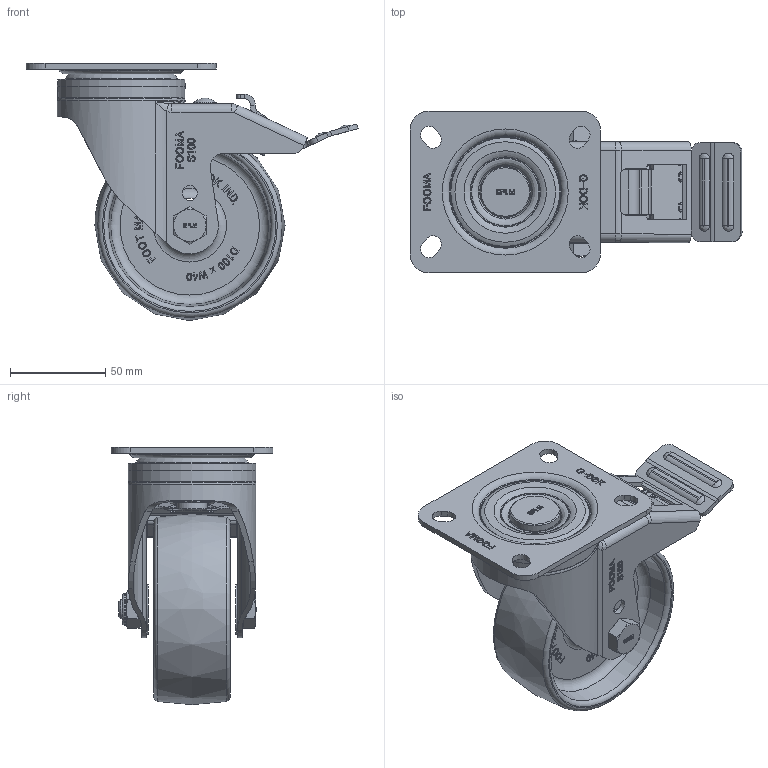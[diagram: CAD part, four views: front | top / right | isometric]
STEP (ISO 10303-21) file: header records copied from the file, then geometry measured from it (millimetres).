
FILE_DESCRIPTION(/* description */ (''),/* implementation_level */ '2;1');
FILE_NAME(/* name */ '\\192.168.10.38\지덕공유\1.기술연구소\2.연구개발 완료\완료_98.스테인레스캐스터 개발건_2023.10.26\제품설계\3D\홈페이지용\NYP\STP\SPLM-100-BSF-NYP-PEU.stp',/* time_stamp */ '2025-07-17T16:47:05+09:00',/* author */ ('admin'),/* organization */ ('지덕산업'),/* preprocessor_version */ 'ST-DEVELOPER v18.1',/* originating_system */ 'Autodesk Inventor 2021',/* authorisation */ '');
FILE_SCHEMA (('CONFIG_CONTROL_DESIGN'));
Products named in the file (1): SPLM-100-BSF-NYP-PEU
Bounding box: 174.29 x 85 x 135 mm (x, y, z)
Volume: 290714.6 mm3; surface area: 104520.1 mm2
Topology: 1 solids, 1 shells, 1714 faces, 4556 edges, 2939 vertices
Faces by surface type: plane 854, bspline 498, cylinder 256, cone 65, torus 40, sphere 1
Full cylindrical faces by diameter (mm): 6 x1, 7 x3, 8 x2, 9 x1, 10 x2, 11 x1, 12 x1, 16 x2, 16.5 x1, 26.6 x1, 54 x1, 67 x1
Entity records: 55062 total; most frequent: CARTESIAN_POINT 15650, ORIENTED_EDGE 9104, DIRECTION 6553, EDGE_CURVE 4552, VERTEX_POINT 2939, LINE 2707, VECTOR 2707, AXIS2_PLACEMENT_3D 1923
